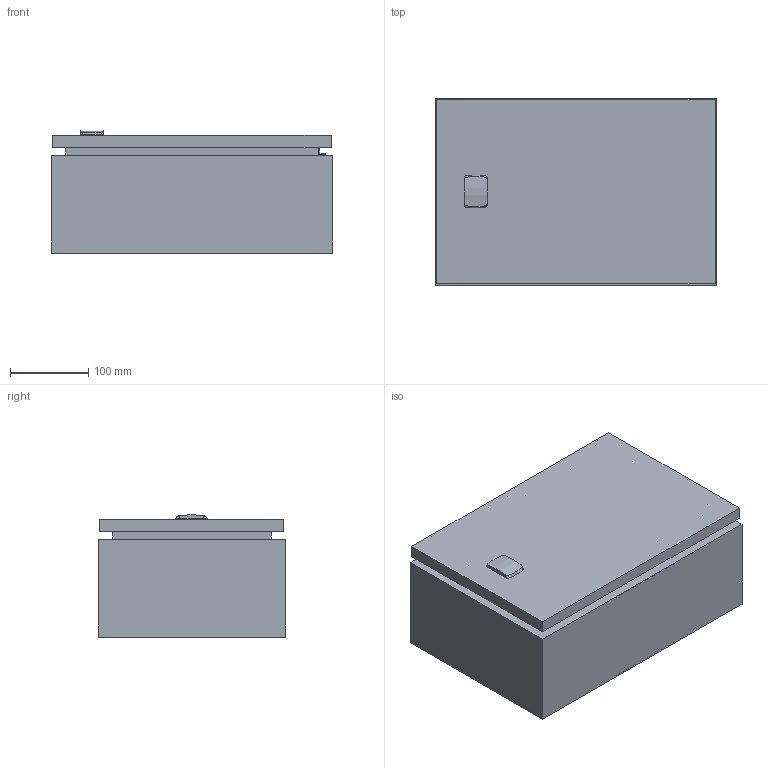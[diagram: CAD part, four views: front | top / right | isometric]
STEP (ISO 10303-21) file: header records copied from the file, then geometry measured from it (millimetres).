
FILE_DESCRIPTION(/* description */ ('STEP AP203'),/* implementation_level */ '2;1');
FILE_NAME(/* name */ 'ASR0243615(0)',/* time_stamp */ '2024-03-04T12:56:03+01:00',/* author */ ('License CC BY-ND 4.0'),/* organization */ ('CADENAS'),/* preprocessor_version */ 'ST-DEVELOPER v19.3',/* originating_system */ 'PARTsolutions',/* authorisation */ ' ');
FILE_SCHEMA (('CONFIG_CONTROL_DESIGN'));
Length unit declared in the file: millimetre
Products named in the file (6): ASR0243615(0); ASR0243615(0)_P1; MMSH06SS(0)_right; ADPS02436(0); ALLS503_304(0,0,26.8); AMP02436_MPL(0)
Assembly tree (6 placements, depth 2):
  ASR0243615(0)
    ASR0243615(0)_P1
    MMSH06SS(0)_right  x2
    ADPS02436(0)
    ALLS503_304(0,0,26.8)
    AMP02436_MPL(0)
Bounding box: 360 x 240 x 156.2 mm (x, y, z)
Volume: 838211.4 mm3; surface area: 922933.5 mm2
Topology: 6 solids, 6 shells, 274 faces, 645 edges, 419 vertices
Faces by surface type: plane 192, cylinder 70, cone 11, torus 1
Full cylindrical faces by diameter (mm): 4.9 x2, 7.22 x1, 7.25 x5, 8 x6, 9 x3, 9.08 x5, 16 x6, 18 x1, 27 x1
Entity records: 7545 total; most frequent: CARTESIAN_POINT 1254, DIRECTION 1185, ORIENTED_EDGE 1096, EDGE_CURVE 548, AXIS2_PLACEMENT_3D 398, LINE 389, VECTOR 389, VERTEX_POINT 377
